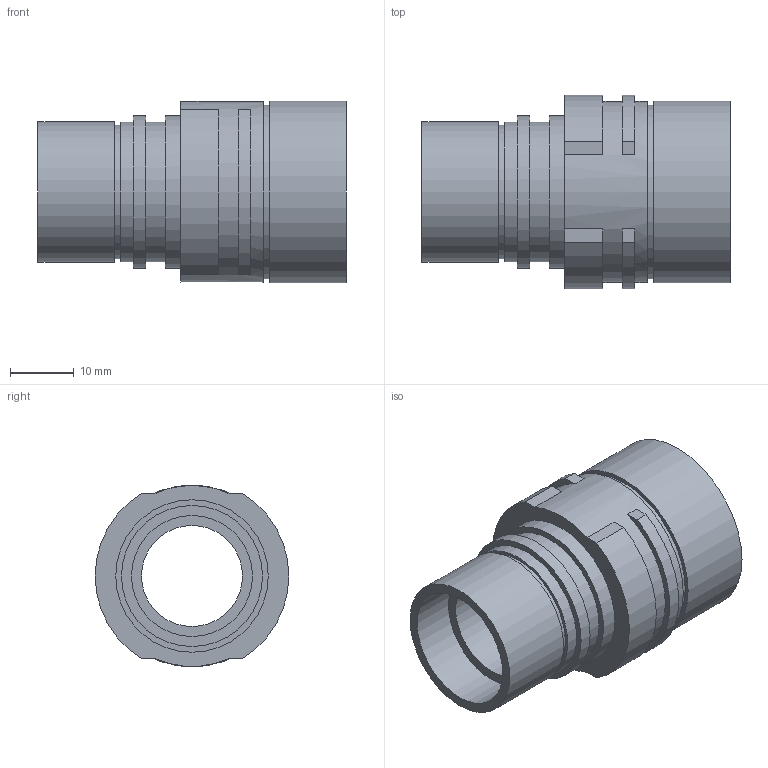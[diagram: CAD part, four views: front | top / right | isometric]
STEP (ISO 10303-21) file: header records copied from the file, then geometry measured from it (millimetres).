
FILE_DESCRIPTION( ( 'Unknown' ), '1' );
FILE_NAME( '//Sv02/01_社内情報/103_技術部/012_図面/図面/電子カタログ-3D/電子カタログ-3D元ファイル(par)/70_3D電子カタログ/02_RU/インチ/70-25.4RU19.05-P.stp', 'Unknown', ( 'Unknown' ), ( 'Unknown' ), 'XStep 1.0', 'Unknown', ' ' );
FILE_SCHEMA( ( 'CONFIG_CONTROL_DESIGN' ) );
Length unit declared in the file: millimetre
Products named in the file (1): 1
Bounding box: 48.5 x 30.5 x 28.65 mm (x, y, z)
Volume: 10216.9 mm3; surface area: 8345.8 mm2
Topology: 1 solids, 1 shells, 46 faces, 92 edges, 60 vertices
Faces by surface type: plane 26, cylinder 17, torus 1, cone 1, bspline 1
Full cylindrical faces by diameter (mm): 15.9 x1, 19.05 x1, 21 x1, 22 x2, 22.2 x2, 24 x2, 25.4 x1, 27.35 x1, 28.5 x1, 28.65 x1
Entity records: 1189 total; most frequent: DIRECTION 210, CARTESIAN_POINT 208, ORIENTED_EDGE 150, AXIS2_PLACEMENT_3D 89, EDGE_LOOP 76, EDGE_CURVE 75, FACE_OUTER_BOUND 61, VERTEX_POINT 59
